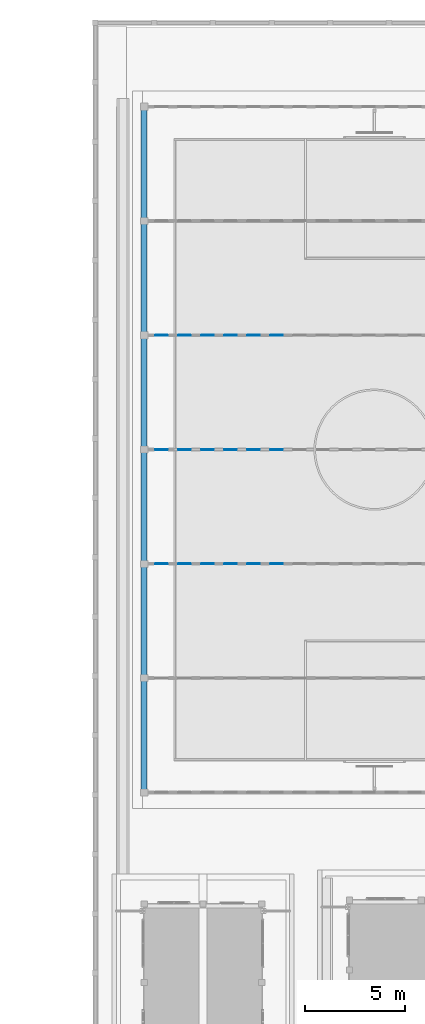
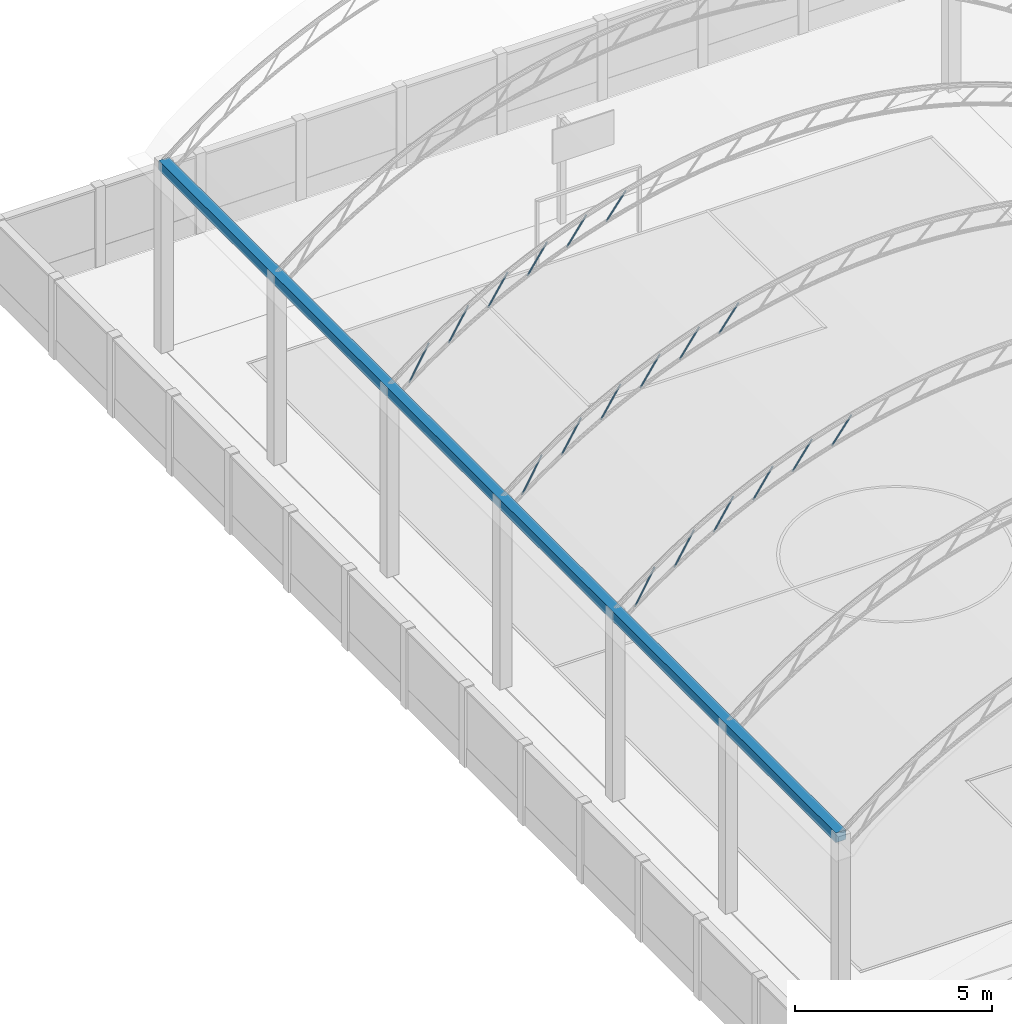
# One storey, part 22 of 177: 19 beams.
"""IFC4 building model written with IfcOpenShell, lengths in metres."""

from ifc_helpers import new_model, si_unit, origin, origin_with_axes, place, context, subcontext, project, spatial, triangles, element, save


model = new_model("IFC4")

# Units and contexts
model_context = context("Model", 3, precision=1e-05, world=origin_with_axes())
body_context = subcontext(model_context, "Body", "Model", "MODEL_VIEW")
ifc_project = project(units=[si_unit("LENGTHUNIT", "METRE"), si_unit("AREAUNIT", "SQUARE_METRE"), si_unit("VOLUMEUNIT", "CUBIC_METRE"), si_unit("PLANEANGLEUNIT", "RADIAN")], contexts=[model_context])

# Site, building, storey
site_placement = place(None, origin_with_axes())
site = spatial("IfcSite", under=ifc_project, at=site_placement, Name="Predio Los Mangos - Morales, San Martín", CompositionType="ELEMENT")
building_placement = place(site_placement, origin())
building = spatial("IfcBuilding", under=site, at=building_placement, Name="Hogar de Refugio Temporal", CompositionType="ELEMENT")
storey_placement = place(building_placement, origin())
storey = spatial("IfcBuildingStorey", under=building, at=storey_placement, Name="NIVEL 1 (NPT +0.00)", CompositionType="ELEMENT", Elevation=0.0)

# Beams
beam_1_placement = place(storey_placement, origin())
element("IfcBeam", 1, at=beam_1_placement, inside=storey, Name="diag", ObjectType="Viga", PredefinedType="BEAM", context=body_context, shape_type="Tessellation", body=[
    triangles([(4.0666, 104.0883, 5.8202), (4.0586, 104.0792, 5.8247), (4.0557, 104.0667, 5.8263), (4.0586, 104.0542, 5.8247), (4.0666, 104.045, 5.8202), (4.0775, 104.0417, 5.8141), (4.0884, 104.045, 5.808), (4.0964, 104.0542, 5.8035), (4.0993, 104.0667, 5.8018), (4.0964, 104.0792, 5.8035), (4.0884, 104.0883, 5.808), (4.0775, 104.0917, 5.8141), (4.6441, 104.0883, 6.8469), (4.6361, 104.0792, 6.8514), (4.6332, 104.0667, 6.8531), (4.6361, 104.0542, 6.8514), (4.6441, 104.045, 6.8469), (4.655, 104.0417, 6.8408), (4.6659, 104.045, 6.8347), (4.6739, 104.0542, 6.8302), (4.6768, 104.0667, 6.8286), (4.6739, 104.0792, 6.8302), (4.6659, 104.0883, 6.8347), (4.655, 104.0917, 6.8408)], [[1, 13, 24], [1, 24, 12], [2, 14, 13], [2, 13, 1], [3, 15, 14], [3, 14, 2], [4, 16, 15], [4, 15, 3], [5, 17, 16], [5, 16, 4], [6, 18, 17], [6, 17, 5], [7, 19, 18], [7, 18, 6], [8, 20, 19], [8, 19, 7], [9, 21, 20], [9, 20, 8], [10, 22, 21], [10, 21, 9], [11, 23, 22], [11, 22, 10], [12, 24, 23], [12, 23, 11]]),
])
beam_2_placement = place(storey_placement, origin())
element("IfcBeam", 2, at=beam_2_placement, inside=storey, Name="diag", ObjectType="Viga", PredefinedType="BEAM", context=body_context, shape_type="Tessellation", body=[
    triangles([(5.2218, 104.0883, 6.6398), (5.2139, 104.0792, 6.6445), (5.2111, 104.0667, 6.6462), (5.2139, 104.0542, 6.6445), (5.2218, 104.045, 6.6398), (5.2325, 104.0417, 6.6333), (5.2432, 104.045, 6.6269), (5.2511, 104.0542, 6.6222), (5.2539, 104.0667, 6.6205), (5.2511, 104.0792, 6.6222), (5.2432, 104.0883, 6.6269), (5.2325, 104.0917, 6.6333), (5.7993, 104.0883, 7.6007), (5.7914, 104.0792, 7.6055), (5.7886, 104.0667, 7.6072), (5.7914, 104.0542, 7.6055), (5.7993, 104.045, 7.6007), (5.81, 104.0417, 7.5943), (5.8207, 104.045, 7.5879), (5.8286, 104.0542, 7.5832), (5.8314, 104.0667, 7.5814), (5.8286, 104.0792, 7.5832), (5.8207, 104.0883, 7.5879), (5.81, 104.0917, 7.5943)], [[1, 13, 24], [1, 24, 12], [2, 14, 13], [2, 13, 1], [3, 15, 14], [3, 14, 2], [4, 16, 15], [4, 15, 3], [5, 17, 16], [5, 16, 4], [6, 18, 17], [6, 17, 5], [7, 19, 18], [7, 18, 6], [8, 20, 19], [8, 19, 7], [9, 21, 20], [9, 20, 8], [10, 22, 21], [10, 21, 9], [11, 23, 22], [11, 22, 10], [12, 24, 23], [12, 23, 11]]),
])
beam_3_placement = place(storey_placement, origin())
element("IfcBeam", 3, at=beam_3_placement, inside=storey, Name="diag", ObjectType="Viga", PredefinedType="BEAM", context=body_context, shape_type="Tessellation", body=[
    triangles([(6.377, 104.0883, 7.3326), (6.3693, 104.0792, 7.3375), (6.3664, 104.0667, 7.3393), (6.3693, 104.0542, 7.3375), (6.377, 104.045, 7.3326), (6.3875, 104.0417, 7.3259), (6.398, 104.045, 7.3191), (6.4057, 104.0542, 7.3142), (6.4086, 104.0667, 7.3124), (6.4057, 104.0792, 7.3142), (6.398, 104.0883, 7.3191), (6.3875, 104.0917, 7.3259), (6.9545, 104.0883, 8.2366), (6.9468, 104.0792, 8.2415), (6.9439, 104.0667, 8.2433), (6.9468, 104.0542, 8.2415), (6.9545, 104.045, 8.2366), (6.965, 104.0417, 8.2298), (6.9755, 104.045, 8.2231), (6.9832, 104.0542, 8.2182), (6.9861, 104.0667, 8.2164), (6.9832, 104.0792, 8.2182), (6.9755, 104.0883, 8.2231), (6.965, 104.0917, 8.2298)], [[1, 13, 24], [1, 24, 12], [2, 14, 13], [2, 13, 1], [3, 15, 14], [3, 14, 2], [4, 16, 15], [4, 15, 3], [5, 17, 16], [5, 16, 4], [6, 18, 17], [6, 17, 5], [7, 19, 18], [7, 18, 6], [8, 20, 19], [8, 19, 7], [9, 21, 20], [9, 20, 8], [10, 22, 21], [10, 21, 9], [11, 23, 22], [11, 22, 10], [12, 24, 23], [12, 23, 11]]),
])
beam_4_placement = place(storey_placement, origin())
element("IfcBeam", 4, at=beam_4_placement, inside=storey, Name="diag", ObjectType="Viga", PredefinedType="BEAM", context=body_context, shape_type="Tessellation", body=[
    triangles([(7.5321, 104.0883, 7.9148), (7.5246, 104.0792, 7.9199), (7.5218, 104.0667, 7.9218), (7.5246, 104.0542, 7.9199), (7.5321, 104.045, 7.9148), (7.5425, 104.0417, 7.9077), (7.5529, 104.045, 7.9007), (7.5604, 104.0542, 7.8956), (7.5632, 104.0667, 7.8937), (7.5604, 104.0792, 7.8956), (7.5529, 104.0883, 7.9007), (7.5425, 104.0917, 7.9077), (8.1096, 104.0883, 8.7679), (8.1021, 104.0792, 8.7731), (8.0993, 104.0667, 8.7749), (8.1021, 104.0542, 8.7731), (8.1096, 104.045, 8.7679), (8.12, 104.0417, 8.7609), (8.1304, 104.045, 8.7539), (8.1379, 104.0542, 8.7488), (8.1407, 104.0667, 8.7469), (8.1379, 104.0792, 8.7488), (8.1304, 104.0883, 8.7539), (8.12, 104.0917, 8.7609)], [[1, 13, 24], [1, 24, 12], [2, 14, 13], [2, 13, 1], [3, 15, 14], [3, 14, 2], [4, 16, 15], [4, 15, 3], [5, 17, 16], [5, 16, 4], [6, 18, 17], [6, 17, 5], [7, 19, 18], [7, 18, 6], [8, 20, 19], [8, 19, 7], [9, 21, 20], [9, 20, 8], [10, 22, 21], [10, 21, 9], [11, 23, 22], [11, 22, 10], [12, 24, 23], [12, 23, 11]]),
])
beam_5_placement = place(storey_placement, origin())
element("IfcBeam", 5, at=beam_5_placement, inside=storey, Name="diag", ObjectType="Viga", PredefinedType="BEAM", context=body_context, shape_type="Tessellation", body=[
    triangles([(8.6873, 104.0883, 8.3978), (8.6799, 104.0792, 8.4031), (8.6772, 104.0667, 8.405), (8.6799, 104.0542, 8.4031), (8.6873, 104.045, 8.3978), (8.6975, 104.0417, 8.3905), (8.7077, 104.045, 8.3832), (8.7151, 104.0542, 8.3779), (8.7178, 104.0667, 8.3759), (8.7151, 104.0792, 8.3779), (8.7077, 104.0883, 8.3832), (8.6975, 104.0917, 8.3905), (9.2648, 104.0883, 9.2047), (9.2574, 104.0792, 9.21), (9.2547, 104.0667, 9.2119), (9.2574, 104.0542, 9.21), (9.2648, 104.045, 9.2047), (9.275, 104.0417, 9.1974), (9.2852, 104.045, 9.1901), (9.2926, 104.0542, 9.1848), (9.2953, 104.0667, 9.1828), (9.2926, 104.0792, 9.1848), (9.2852, 104.0883, 9.1901), (9.275, 104.0917, 9.1974)], [[1, 13, 24], [1, 24, 12], [2, 14, 13], [2, 13, 1], [3, 15, 14], [3, 14, 2], [4, 16, 15], [4, 15, 3], [5, 17, 16], [5, 16, 4], [6, 18, 17], [6, 17, 5], [7, 19, 18], [7, 18, 6], [8, 20, 19], [8, 19, 7], [9, 21, 20], [9, 20, 8], [10, 22, 21], [10, 21, 9], [11, 23, 22], [11, 22, 10], [12, 24, 23], [12, 23, 11]]),
])
beam_6_placement = place(storey_placement, origin())
element("IfcBeam", 6, at=beam_6_placement, inside=storey, Name="diag", ObjectType="Viga", PredefinedType="BEAM", context=body_context, shape_type="Tessellation", body=[
    triangles([(9.8425, 104.0883, 8.79), (9.8352, 104.0792, 8.7955), (9.8326, 104.0667, 8.7975), (9.8352, 104.0542, 8.7955), (9.8425, 104.045, 8.79), (9.8525, 104.0417, 8.7824), (9.8625, 104.045, 8.7749), (9.8698, 104.0542, 8.7694), (9.8724, 104.0667, 8.7674), (9.8698, 104.0792, 8.7694), (9.8625, 104.0883, 8.7749), (9.8525, 104.0917, 8.7824), (10.42, 104.0883, 9.5539), (10.4127, 104.0792, 9.5594), (10.4101, 104.0667, 9.5614), (10.4127, 104.0542, 9.5594), (10.42, 104.045, 9.5539), (10.43, 104.0417, 9.5463), (10.44, 104.045, 9.5388), (10.4473, 104.0542, 9.5333), (10.4499, 104.0667, 9.5313), (10.4473, 104.0792, 9.5333), (10.44, 104.0883, 9.5388), (10.43, 104.0917, 9.5463)], [[1, 13, 24], [1, 24, 12], [2, 14, 13], [2, 13, 1], [3, 15, 14], [3, 14, 2], [4, 16, 15], [4, 15, 3], [5, 17, 16], [5, 16, 4], [6, 18, 17], [6, 17, 5], [7, 19, 18], [7, 18, 6], [8, 20, 19], [8, 19, 7], [9, 21, 20], [9, 20, 8], [10, 22, 21], [10, 21, 9], [11, 23, 22], [11, 22, 10], [12, 24, 23], [12, 23, 11]]),
])
beam_7_placement = place(storey_placement, origin())
element("IfcBeam", 7, at=beam_7_placement, inside=storey, Name="diag", ObjectType="Viga", PredefinedType="BEAM", context=body_context, shape_type="Tessellation", body=[
    triangles([(4.0666, 109.8217, 5.8202), (4.0586, 109.8125, 5.8247), (4.0557, 109.8, 5.8263), (4.0586, 109.7875, 5.8247), (4.0666, 109.7784, 5.8202), (4.0775, 109.775, 5.8141), (4.0884, 109.7784, 5.808), (4.0964, 109.7875, 5.8035), (4.0993, 109.8, 5.8018), (4.0964, 109.8125, 5.8035), (4.0884, 109.8217, 5.808), (4.0775, 109.825, 5.8141), (4.6441, 109.8217, 6.8469), (4.6361, 109.8125, 6.8514), (4.6332, 109.8, 6.8531), (4.6361, 109.7875, 6.8514), (4.6441, 109.7784, 6.8469), (4.655, 109.775, 6.8408), (4.6659, 109.7784, 6.8347), (4.6739, 109.7875, 6.8302), (4.6768, 109.8, 6.8286), (4.6739, 109.8125, 6.8302), (4.6659, 109.8217, 6.8347), (4.655, 109.825, 6.8408)], [[1, 13, 24], [1, 24, 12], [2, 14, 13], [2, 13, 1], [3, 15, 14], [3, 14, 2], [4, 16, 15], [4, 15, 3], [5, 17, 16], [5, 16, 4], [6, 18, 17], [6, 17, 5], [7, 19, 18], [7, 18, 6], [8, 20, 19], [8, 19, 7], [9, 21, 20], [9, 20, 8], [10, 22, 21], [10, 21, 9], [11, 23, 22], [11, 22, 10], [12, 24, 23], [12, 23, 11]]),
])
beam_8_placement = place(storey_placement, origin())
element("IfcBeam", 8, at=beam_8_placement, inside=storey, Name="diag", ObjectType="Viga", PredefinedType="BEAM", context=body_context, shape_type="Tessellation", body=[
    triangles([(5.2218, 109.8217, 6.6398), (5.2139, 109.8125, 6.6445), (5.2111, 109.8, 6.6462), (5.2139, 109.7875, 6.6445), (5.2218, 109.7784, 6.6398), (5.2325, 109.775, 6.6333), (5.2432, 109.7784, 6.6269), (5.2511, 109.7875, 6.6222), (5.2539, 109.8, 6.6205), (5.2511, 109.8125, 6.6222), (5.2432, 109.8217, 6.6269), (5.2325, 109.825, 6.6333), (5.7993, 109.8217, 7.6007), (5.7914, 109.8125, 7.6055), (5.7886, 109.8, 7.6072), (5.7914, 109.7875, 7.6055), (5.7993, 109.7784, 7.6007), (5.81, 109.775, 7.5943), (5.8207, 109.7784, 7.5879), (5.8286, 109.7875, 7.5832), (5.8314, 109.8, 7.5814), (5.8286, 109.8125, 7.5832), (5.8207, 109.8217, 7.5879), (5.81, 109.825, 7.5943)], [[1, 13, 24], [1, 24, 12], [2, 14, 13], [2, 13, 1], [3, 15, 14], [3, 14, 2], [4, 16, 15], [4, 15, 3], [5, 17, 16], [5, 16, 4], [6, 18, 17], [6, 17, 5], [7, 19, 18], [7, 18, 6], [8, 20, 19], [8, 19, 7], [9, 21, 20], [9, 20, 8], [10, 22, 21], [10, 21, 9], [11, 23, 22], [11, 22, 10], [12, 24, 23], [12, 23, 11]]),
])
beam_9_placement = place(storey_placement, origin())
element("IfcBeam", 9, at=beam_9_placement, inside=storey, Name="diag", ObjectType="Viga", PredefinedType="BEAM", context=body_context, shape_type="Tessellation", body=[
    triangles([(6.377, 109.8217, 7.3326), (6.3693, 109.8125, 7.3375), (6.3664, 109.8, 7.3393), (6.3693, 109.7875, 7.3375), (6.377, 109.7784, 7.3326), (6.3875, 109.775, 7.3259), (6.398, 109.7784, 7.3191), (6.4057, 109.7875, 7.3142), (6.4086, 109.8, 7.3124), (6.4057, 109.8125, 7.3142), (6.398, 109.8217, 7.3191), (6.3875, 109.825, 7.3259), (6.9545, 109.8217, 8.2366), (6.9468, 109.8125, 8.2415), (6.9439, 109.8, 8.2433), (6.9468, 109.7875, 8.2415), (6.9545, 109.7784, 8.2366), (6.965, 109.775, 8.2298), (6.9755, 109.7784, 8.2231), (6.9832, 109.7875, 8.2182), (6.9861, 109.8, 8.2164), (6.9832, 109.8125, 8.2182), (6.9755, 109.8217, 8.2231), (6.965, 109.825, 8.2298)], [[1, 13, 24], [1, 24, 12], [2, 14, 13], [2, 13, 1], [3, 15, 14], [3, 14, 2], [4, 16, 15], [4, 15, 3], [5, 17, 16], [5, 16, 4], [6, 18, 17], [6, 17, 5], [7, 19, 18], [7, 18, 6], [8, 20, 19], [8, 19, 7], [9, 21, 20], [9, 20, 8], [10, 22, 21], [10, 21, 9], [11, 23, 22], [11, 22, 10], [12, 24, 23], [12, 23, 11]]),
])
beam_10_placement = place(storey_placement, origin())
element("IfcBeam", 10, at=beam_10_placement, inside=storey, Name="diag", ObjectType="Viga", PredefinedType="BEAM", context=body_context, shape_type="Tessellation", body=[
    triangles([(7.5321, 109.8217, 7.9148), (7.5246, 109.8125, 7.9199), (7.5218, 109.8, 7.9218), (7.5246, 109.7875, 7.9199), (7.5321, 109.7784, 7.9148), (7.5425, 109.775, 7.9077), (7.5529, 109.7784, 7.9007), (7.5604, 109.7875, 7.8956), (7.5632, 109.8, 7.8937), (7.5604, 109.8125, 7.8956), (7.5529, 109.8217, 7.9007), (7.5425, 109.825, 7.9077), (8.1096, 109.8217, 8.7679), (8.1021, 109.8125, 8.7731), (8.0993, 109.8, 8.7749), (8.1021, 109.7875, 8.7731), (8.1096, 109.7784, 8.7679), (8.12, 109.775, 8.7609), (8.1304, 109.7784, 8.7539), (8.1379, 109.7875, 8.7488), (8.1407, 109.8, 8.7469), (8.1379, 109.8125, 8.7488), (8.1304, 109.8217, 8.7539), (8.12, 109.825, 8.7609)], [[1, 13, 24], [1, 24, 12], [2, 14, 13], [2, 13, 1], [3, 15, 14], [3, 14, 2], [4, 16, 15], [4, 15, 3], [5, 17, 16], [5, 16, 4], [6, 18, 17], [6, 17, 5], [7, 19, 18], [7, 18, 6], [8, 20, 19], [8, 19, 7], [9, 21, 20], [9, 20, 8], [10, 22, 21], [10, 21, 9], [11, 23, 22], [11, 22, 10], [12, 24, 23], [12, 23, 11]]),
])
beam_11_placement = place(storey_placement, origin())
element("IfcBeam", 11, at=beam_11_placement, inside=storey, Name="diag", ObjectType="Viga", PredefinedType="BEAM", context=body_context, shape_type="Tessellation", body=[
    triangles([(8.6873, 109.8217, 8.3978), (8.6799, 109.8125, 8.4031), (8.6772, 109.8, 8.405), (8.6799, 109.7875, 8.4031), (8.6873, 109.7784, 8.3978), (8.6975, 109.775, 8.3905), (8.7077, 109.7784, 8.3832), (8.7151, 109.7875, 8.3779), (8.7178, 109.8, 8.3759), (8.7151, 109.8125, 8.3779), (8.7077, 109.8217, 8.3832), (8.6975, 109.825, 8.3905), (9.2648, 109.8217, 9.2047), (9.2574, 109.8125, 9.21), (9.2547, 109.8, 9.2119), (9.2574, 109.7875, 9.21), (9.2648, 109.7784, 9.2047), (9.275, 109.775, 9.1974), (9.2852, 109.7784, 9.1901), (9.2926, 109.7875, 9.1848), (9.2953, 109.8, 9.1828), (9.2926, 109.8125, 9.1848), (9.2852, 109.8217, 9.1901), (9.275, 109.825, 9.1974)], [[1, 13, 24], [1, 24, 12], [2, 14, 13], [2, 13, 1], [3, 15, 14], [3, 14, 2], [4, 16, 15], [4, 15, 3], [5, 17, 16], [5, 16, 4], [6, 18, 17], [6, 17, 5], [7, 19, 18], [7, 18, 6], [8, 20, 19], [8, 19, 7], [9, 21, 20], [9, 20, 8], [10, 22, 21], [10, 21, 9], [11, 23, 22], [11, 22, 10], [12, 24, 23], [12, 23, 11]]),
])
beam_12_placement = place(storey_placement, origin())
element("IfcBeam", 12, at=beam_12_placement, inside=storey, Name="diag", ObjectType="Viga", PredefinedType="BEAM", context=body_context, shape_type="Tessellation", body=[
    triangles([(9.8425, 109.8217, 8.79), (9.8352, 109.8125, 8.7955), (9.8326, 109.8, 8.7975), (9.8352, 109.7875, 8.7955), (9.8425, 109.7784, 8.79), (9.8525, 109.775, 8.7824), (9.8625, 109.7784, 8.7749), (9.8698, 109.7875, 8.7694), (9.8724, 109.8, 8.7674), (9.8698, 109.8125, 8.7694), (9.8625, 109.8217, 8.7749), (9.8525, 109.825, 8.7824), (10.42, 109.8217, 9.5539), (10.4127, 109.8125, 9.5594), (10.4101, 109.8, 9.5614), (10.4127, 109.7875, 9.5594), (10.42, 109.7784, 9.5539), (10.43, 109.775, 9.5463), (10.44, 109.7784, 9.5388), (10.4473, 109.7875, 9.5333), (10.4499, 109.8, 9.5313), (10.4473, 109.8125, 9.5333), (10.44, 109.8217, 9.5388), (10.43, 109.825, 9.5463)], [[1, 13, 24], [1, 24, 12], [2, 14, 13], [2, 13, 1], [3, 15, 14], [3, 14, 2], [4, 16, 15], [4, 15, 3], [5, 17, 16], [5, 16, 4], [6, 18, 17], [6, 17, 5], [7, 19, 18], [7, 18, 6], [8, 20, 19], [8, 19, 7], [9, 21, 20], [9, 20, 8], [10, 22, 21], [10, 21, 9], [11, 23, 22], [11, 22, 10], [12, 24, 23], [12, 23, 11]]),
])
beam_13_placement = place(storey_placement, origin())
element("IfcBeam", 13, at=beam_13_placement, inside=storey, Name="diag", ObjectType="Viga", PredefinedType="BEAM", context=body_context, shape_type="Tessellation", body=[
    triangles([(4.0666, 115.555, 5.8202), (4.0586, 115.5458, 5.8247), (4.0557, 115.5333, 5.8263), (4.0586, 115.5208, 5.8247), (4.0666, 115.5117, 5.8202), (4.0775, 115.5083, 5.8141), (4.0884, 115.5117, 5.808), (4.0964, 115.5208, 5.8035), (4.0993, 115.5333, 5.8018), (4.0964, 115.5458, 5.8035), (4.0884, 115.555, 5.808), (4.0775, 115.5583, 5.8141), (4.6441, 115.555, 6.8469), (4.6361, 115.5458, 6.8514), (4.6332, 115.5333, 6.8531), (4.6361, 115.5208, 6.8514), (4.6441, 115.5117, 6.8469), (4.655, 115.5083, 6.8408), (4.6659, 115.5117, 6.8347), (4.6739, 115.5208, 6.8302), (4.6768, 115.5333, 6.8286), (4.6739, 115.5458, 6.8302), (4.6659, 115.555, 6.8347), (4.655, 115.5583, 6.8408)], [[1, 13, 24], [1, 24, 12], [2, 14, 13], [2, 13, 1], [3, 15, 14], [3, 14, 2], [4, 16, 15], [4, 15, 3], [5, 17, 16], [5, 16, 4], [6, 18, 17], [6, 17, 5], [7, 19, 18], [7, 18, 6], [8, 20, 19], [8, 19, 7], [9, 21, 20], [9, 20, 8], [10, 22, 21], [10, 21, 9], [11, 23, 22], [11, 22, 10], [12, 24, 23], [12, 23, 11]]),
])
beam_14_placement = place(storey_placement, origin())
element("IfcBeam", 14, at=beam_14_placement, inside=storey, Name="diag", ObjectType="Viga", PredefinedType="BEAM", context=body_context, shape_type="Tessellation", body=[
    triangles([(5.2218, 115.555, 6.6398), (5.2139, 115.5458, 6.6445), (5.2111, 115.5333, 6.6462), (5.2139, 115.5208, 6.6445), (5.2218, 115.5117, 6.6398), (5.2325, 115.5083, 6.6333), (5.2432, 115.5117, 6.6269), (5.2511, 115.5208, 6.6222), (5.2539, 115.5333, 6.6205), (5.2511, 115.5458, 6.6222), (5.2432, 115.555, 6.6269), (5.2325, 115.5583, 6.6333), (5.7993, 115.555, 7.6007), (5.7914, 115.5458, 7.6055), (5.7886, 115.5333, 7.6072), (5.7914, 115.5208, 7.6055), (5.7993, 115.5117, 7.6007), (5.81, 115.5083, 7.5943), (5.8207, 115.5117, 7.5879), (5.8286, 115.5208, 7.5832), (5.8314, 115.5333, 7.5814), (5.8286, 115.5458, 7.5832), (5.8207, 115.555, 7.5879), (5.81, 115.5583, 7.5943)], [[1, 13, 24], [1, 24, 12], [2, 14, 13], [2, 13, 1], [3, 15, 14], [3, 14, 2], [4, 16, 15], [4, 15, 3], [5, 17, 16], [5, 16, 4], [6, 18, 17], [6, 17, 5], [7, 19, 18], [7, 18, 6], [8, 20, 19], [8, 19, 7], [9, 21, 20], [9, 20, 8], [10, 22, 21], [10, 21, 9], [11, 23, 22], [11, 22, 10], [12, 24, 23], [12, 23, 11]]),
])
beam_15_placement = place(storey_placement, origin())
element("IfcBeam", 15, at=beam_15_placement, inside=storey, Name="diag", ObjectType="Viga", PredefinedType="BEAM", context=body_context, shape_type="Tessellation", body=[
    triangles([(6.377, 115.555, 7.3326), (6.3693, 115.5458, 7.3375), (6.3664, 115.5333, 7.3393), (6.3693, 115.5208, 7.3375), (6.377, 115.5117, 7.3326), (6.3875, 115.5083, 7.3259), (6.398, 115.5117, 7.3191), (6.4057, 115.5208, 7.3142), (6.4086, 115.5333, 7.3124), (6.4057, 115.5458, 7.3142), (6.398, 115.555, 7.3191), (6.3875, 115.5583, 7.3259), (6.9545, 115.555, 8.2366), (6.9468, 115.5458, 8.2415), (6.9439, 115.5333, 8.2433), (6.9468, 115.5208, 8.2415), (6.9545, 115.5117, 8.2366), (6.965, 115.5083, 8.2298), (6.9755, 115.5117, 8.2231), (6.9832, 115.5208, 8.2182), (6.9861, 115.5333, 8.2164), (6.9832, 115.5458, 8.2182), (6.9755, 115.555, 8.2231), (6.965, 115.5583, 8.2298)], [[1, 13, 24], [1, 24, 12], [2, 14, 13], [2, 13, 1], [3, 15, 14], [3, 14, 2], [4, 16, 15], [4, 15, 3], [5, 17, 16], [5, 16, 4], [6, 18, 17], [6, 17, 5], [7, 19, 18], [7, 18, 6], [8, 20, 19], [8, 19, 7], [9, 21, 20], [9, 20, 8], [10, 22, 21], [10, 21, 9], [11, 23, 22], [11, 22, 10], [12, 24, 23], [12, 23, 11]]),
])
beam_16_placement = place(storey_placement, origin())
element("IfcBeam", 16, at=beam_16_placement, inside=storey, Name="diag", ObjectType="Viga", PredefinedType="BEAM", context=body_context, shape_type="Tessellation", body=[
    triangles([(7.5321, 115.555, 7.9148), (7.5246, 115.5458, 7.9199), (7.5218, 115.5333, 7.9218), (7.5246, 115.5208, 7.9199), (7.5321, 115.5117, 7.9148), (7.5425, 115.5083, 7.9077), (7.5529, 115.5117, 7.9007), (7.5604, 115.5208, 7.8956), (7.5632, 115.5333, 7.8937), (7.5604, 115.5458, 7.8956), (7.5529, 115.555, 7.9007), (7.5425, 115.5583, 7.9077), (8.1096, 115.555, 8.7679), (8.1021, 115.5458, 8.7731), (8.0993, 115.5333, 8.7749), (8.1021, 115.5208, 8.7731), (8.1096, 115.5117, 8.7679), (8.12, 115.5083, 8.7609), (8.1304, 115.5117, 8.7539), (8.1379, 115.5208, 8.7488), (8.1407, 115.5333, 8.7469), (8.1379, 115.5458, 8.7488), (8.1304, 115.555, 8.7539), (8.12, 115.5583, 8.7609)], [[1, 13, 24], [1, 24, 12], [2, 14, 13], [2, 13, 1], [3, 15, 14], [3, 14, 2], [4, 16, 15], [4, 15, 3], [5, 17, 16], [5, 16, 4], [6, 18, 17], [6, 17, 5], [7, 19, 18], [7, 18, 6], [8, 20, 19], [8, 19, 7], [9, 21, 20], [9, 20, 8], [10, 22, 21], [10, 21, 9], [11, 23, 22], [11, 22, 10], [12, 24, 23], [12, 23, 11]]),
])
beam_17_placement = place(storey_placement, origin())
element("IfcBeam", 17, at=beam_17_placement, inside=storey, Name="diag", ObjectType="Viga", PredefinedType="BEAM", context=body_context, shape_type="Tessellation", body=[
    triangles([(8.6873, 115.555, 8.3978), (8.6799, 115.5458, 8.4031), (8.6772, 115.5333, 8.405), (8.6799, 115.5208, 8.4031), (8.6873, 115.5117, 8.3978), (8.6975, 115.5083, 8.3905), (8.7077, 115.5117, 8.3832), (8.7151, 115.5208, 8.3779), (8.7178, 115.5333, 8.3759), (8.7151, 115.5458, 8.3779), (8.7077, 115.555, 8.3832), (8.6975, 115.5583, 8.3905), (9.2648, 115.555, 9.2047), (9.2574, 115.5458, 9.21), (9.2547, 115.5333, 9.2119), (9.2574, 115.5208, 9.21), (9.2648, 115.5117, 9.2047), (9.275, 115.5083, 9.1974), (9.2852, 115.5117, 9.1901), (9.2926, 115.5208, 9.1848), (9.2953, 115.5333, 9.1828), (9.2926, 115.5458, 9.1848), (9.2852, 115.555, 9.1901), (9.275, 115.5583, 9.1974)], [[1, 13, 24], [1, 24, 12], [2, 14, 13], [2, 13, 1], [3, 15, 14], [3, 14, 2], [4, 16, 15], [4, 15, 3], [5, 17, 16], [5, 16, 4], [6, 18, 17], [6, 17, 5], [7, 19, 18], [7, 18, 6], [8, 20, 19], [8, 19, 7], [9, 21, 20], [9, 20, 8], [10, 22, 21], [10, 21, 9], [11, 23, 22], [11, 22, 10], [12, 24, 23], [12, 23, 11]]),
])
beam_18_placement = place(storey_placement, origin())
element("IfcBeam", 18, at=beam_18_placement, inside=storey, Name="diag", ObjectType="Viga", PredefinedType="BEAM", context=body_context, shape_type="Tessellation", body=[
    triangles([(9.8425, 115.555, 8.79), (9.8352, 115.5458, 8.7955), (9.8326, 115.5333, 8.7975), (9.8352, 115.5208, 8.7955), (9.8425, 115.5117, 8.79), (9.8525, 115.5083, 8.7824), (9.8625, 115.5117, 8.7749), (9.8698, 115.5208, 8.7694), (9.8724, 115.5333, 8.7674), (9.8698, 115.5458, 8.7694), (9.8625, 115.555, 8.7749), (9.8525, 115.5583, 8.7824), (10.42, 115.555, 9.5539), (10.4127, 115.5458, 9.5594), (10.4101, 115.5333, 9.5614), (10.4127, 115.5208, 9.5594), (10.42, 115.5117, 9.5539), (10.43, 115.5083, 9.5463), (10.44, 115.5117, 9.5388), (10.4473, 115.5208, 9.5333), (10.4499, 115.5333, 9.5313), (10.4473, 115.5458, 9.5333), (10.44, 115.555, 9.5388), (10.43, 115.5583, 9.5463)], [[1, 13, 24], [1, 24, 12], [2, 14, 13], [2, 13, 1], [3, 15, 14], [3, 14, 2], [4, 16, 15], [4, 15, 3], [5, 17, 16], [5, 16, 4], [6, 18, 17], [6, 17, 5], [7, 19, 18], [7, 18, 6], [8, 20, 19], [8, 19, 7], [9, 21, 20], [9, 20, 8], [10, 22, 21], [10, 21, 9], [11, 23, 22], [11, 22, 10], [12, 24, 23], [12, 23, 11]]),
])
beam_19_placement = place(storey_placement, origin())
element("IfcBeam", 19, at=beam_19_placement, inside=storey, Name="viga_long", ObjectType="Viga", PredefinedType="BEAM", context=body_context, shape_type="Tessellation", body=[
    triangles([(3.35, 92.6, 5.7), (3.65, 92.6, 5.7), (3.65, 127.0, 5.7), (3.35, 127.0, 5.7), (3.35, 92.6, 6.0), (3.65, 92.6, 6.0), (3.65, 127.0, 6.0), (3.35, 127.0, 6.0)], [[1, 4, 3], [1, 3, 2], [5, 6, 7], [5, 7, 8], [1, 2, 6], [1, 6, 5], [2, 3, 7], [2, 7, 6], [3, 4, 8], [3, 8, 7], [4, 1, 5], [4, 5, 8]]),
])

save(model, "model.ifc")
